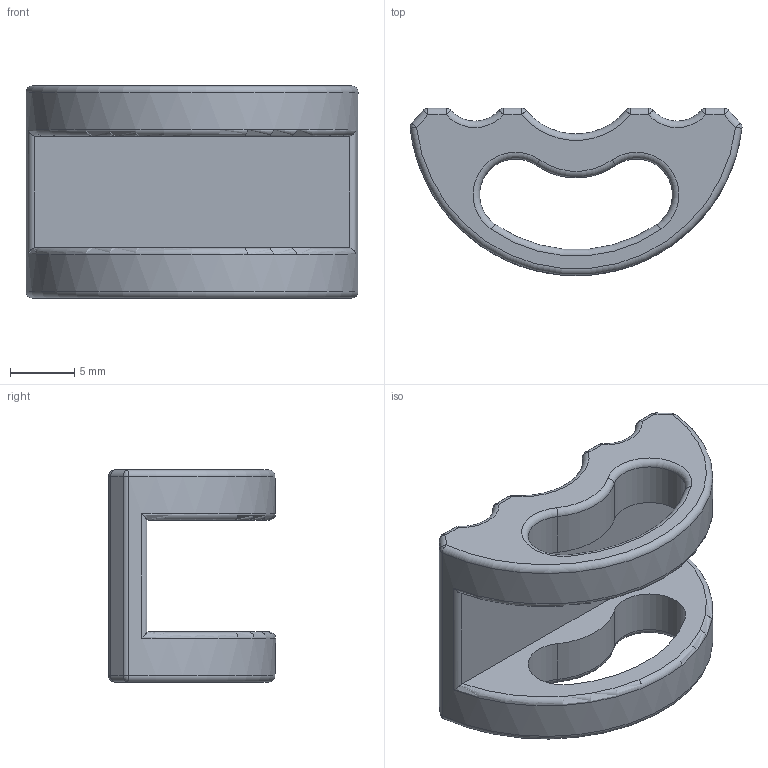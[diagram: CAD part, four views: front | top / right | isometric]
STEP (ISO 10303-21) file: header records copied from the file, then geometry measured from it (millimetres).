
FILE_DESCRIPTION((''),'2;1');
FILE_NAME('RUBY_FRJ_3','2025-03-19T14:35:06',('程川'),(''),'CREO PARAMETRIC BY PTC INC, 2021023','CREO PARAMETRIC BY PTC INC, 2021023','');
FILE_SCHEMA(('CONFIG_CONTROL_DESIGN','SHAPE_APPEARANCE_LAYERS_GROUPS'));
Length unit declared in the file: millimetre
Products named in the file (1): RUBY_FRJ_3
Bounding box: 25.82 x 13 x 16.5 mm (x, y, z)
Volume: 1791.9 mm3; surface area: 1809.4 mm2
Topology: 1 solids, 1 shells, 85 faces, 178 edges, 96 vertices
Faces by surface type: cylinder 36, sphere 20, torus 18, plane 11
Entity records: 2458 total; most frequent: DIRECTION 452, CARTESIAN_POINT 393, ORIENTED_EDGE 356, AXIS2_PLACEMENT_3D 197, EDGE_CURVE 178, CIRCLE 112, VERTEX_POINT 96, EDGE_LOOP 90
